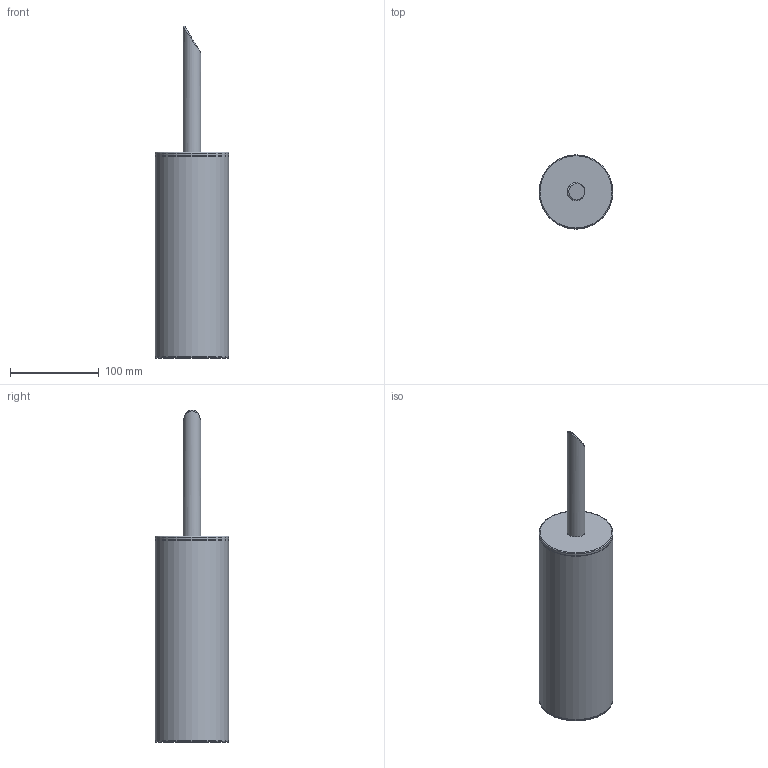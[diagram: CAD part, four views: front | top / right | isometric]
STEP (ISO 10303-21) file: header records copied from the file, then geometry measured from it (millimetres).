
FILE_DESCRIPTION(('STEP AP242'), '1');
FILE_NAME('栖闉罻', '', ('UNSPECIFIED'), ('UNSPECIFIED'), 'ASCON STEP Converter 1.6', 'ASCON Math Kernel', '');
FILE_SCHEMA(('AP242_MANAGED_MODEL_BASED_3D_ENGINEERING_MIM_LF { 1 0 10303 442 1 1 4 }'));
Length unit declared in the file: millimetre
Bounding box: 83.3 x 83.3 x 374.33 mm (x, y, z)
Volume: 1304547.3 mm3; surface area: 79802.3 mm2
Topology: 1 solids, 1 shells, 14 faces, 24 edges, 13 vertices
Faces by surface type: torus 6, cylinder 4, plane 3, bspline 1
Full cylindrical faces by diameter (mm): 20 x1, 83.3 x3
Entity records: 769 total; most frequent: CARTESIAN_POINT 400, DIRECTION 50, EDGE_LOOP 26, ORIENTED_EDGE 26, AXIS2_PLACEMENT_3D 25, FACE_OUTER_BOUND 22, COLOUR_RGB 15, FILL_AREA_STYLE_COLOUR 15
